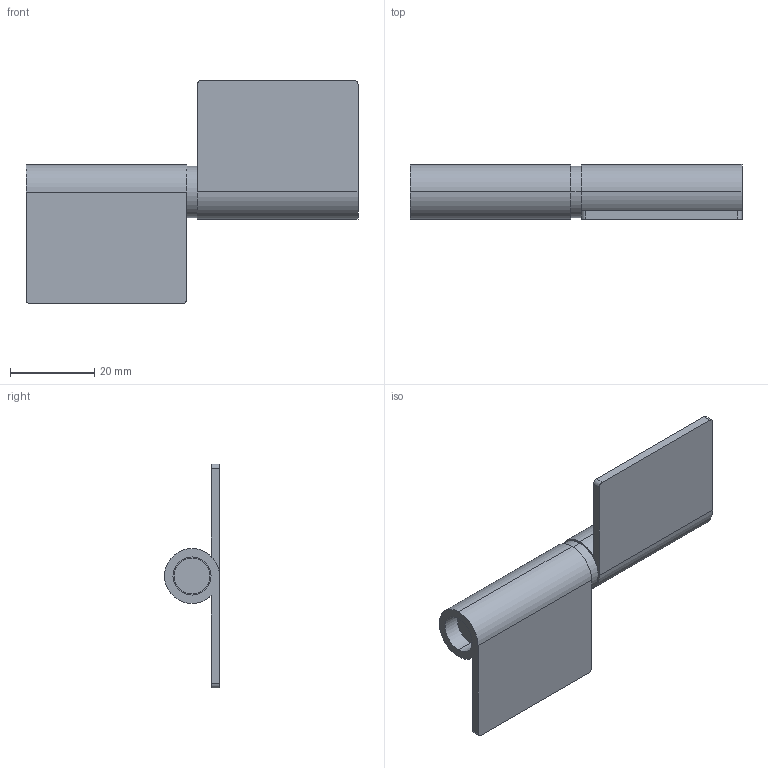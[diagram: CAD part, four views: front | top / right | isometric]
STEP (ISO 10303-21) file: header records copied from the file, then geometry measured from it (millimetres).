
FILE_DESCRIPTION (( 'STEP AP203' ), '1' );
FILE_NAME ('B30-20040.STEP', '2025-03-05T08:07:07', ( '' ), ( '' ), 'SwSTEP 2.0', 'SolidWorks 2021', '' );
FILE_SCHEMA (( 'CONFIG_CONTROL_DESIGN' ));
Length unit declared in the file: millimetre
Products named in the file (3): B30-20040-軸; B30-20040-片; B30-20040
Assembly tree (3 placements, depth 2):
  B30-20040
    B30-20040-片  x2
    B30-20040-軸
Bounding box: 78.6 x 13 x 53 mm (x, y, z)
Volume: 12881.4 mm3; surface area: 11273.9 mm2
Topology: 3 solids, 3 shells, 34 faces, 78 edges, 52 vertices
Faces by surface type: cylinder 20, plane 14
Entity records: 959 total; most frequent: DIRECTION 130, CARTESIAN_POINT 108, ORIENTED_EDGE 96, AXIS2_PLACEMENT_3D 54, EDGE_CURVE 48, VERTEX_POINT 32, PERSON_AND_ORGANIZATION 27, EDGE_LOOP 26
